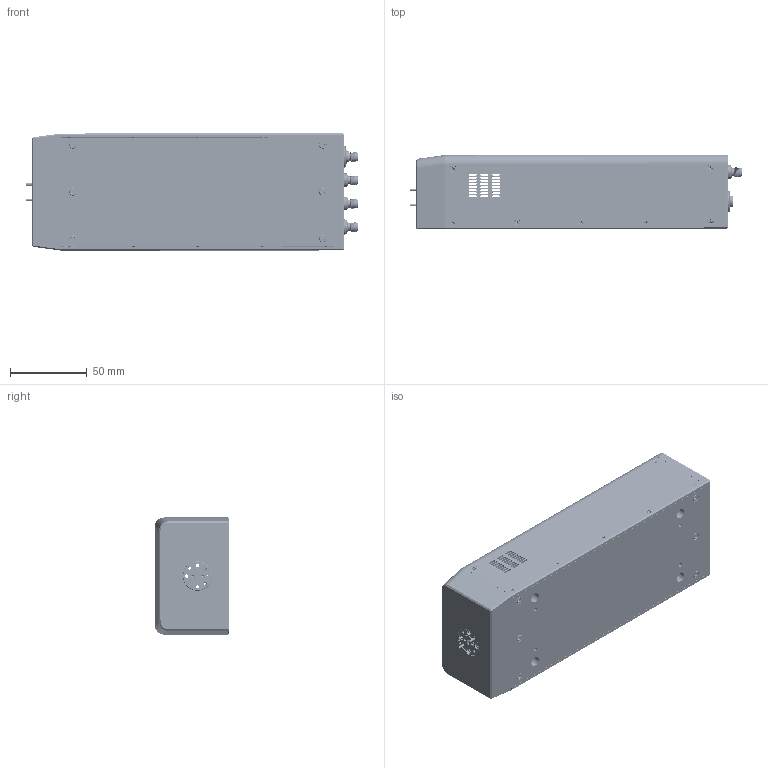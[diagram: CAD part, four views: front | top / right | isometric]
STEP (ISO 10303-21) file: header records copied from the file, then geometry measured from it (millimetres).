
FILE_DESCRIPTION (( 'STEP AP214' ), '1' );
FILE_NAME ('TO-SV-A-2 Mountable.STEP', '2025-07-09T21:43:49', ( '' ), ( '' ), 'SwSTEP 2.0', 'SolidWorks 2021', '' );
FILE_SCHEMA (( 'AUTOMOTIVE_DESIGN' ));
Length unit declared in the file: inch
Products named in the file (1): TO-SV-A-2 Mountable
Bounding box: 216.15 x 48.66 x 76.35 mm (x, y, z)
Volume: 203489.8 mm3; surface area: 137720.1 mm2
Topology: 87 solids, 87 shells, 4843 faces, 13086 edges, 8421 vertices
Faces by surface type: cylinder 2584, plane 1178, cone 641, bspline 436, torus 4
Entity records: 340812 total; most frequent: CARTESIAN_POINT 170243, ORIENTED_EDGE 25932, DIRECTION 18477, EDGE_CURVE 12966, VERTEX_POINT 8421, AXIS2_PLACEMENT_3D 6793, EDGE_LOOP 5279, VECTOR 4891
